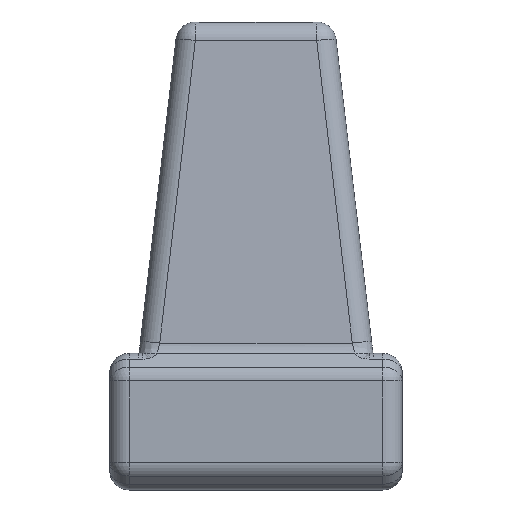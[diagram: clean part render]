
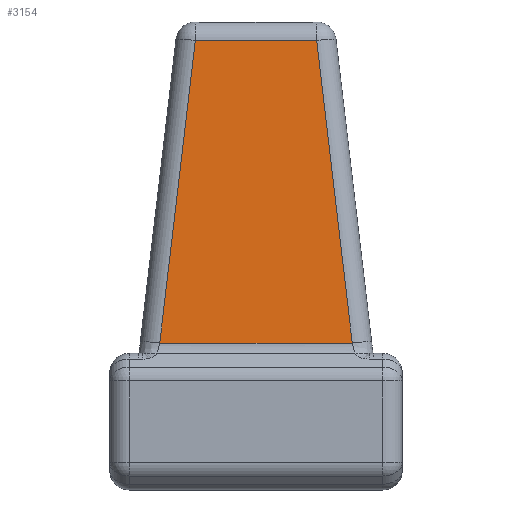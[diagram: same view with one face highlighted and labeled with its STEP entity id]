
A CAD part, top view. The second image highlights one B-rep face of the part: STEP entity #3154.
In plain terms, the highlighted planar face has unit normal (0, 0.052, 0.999).
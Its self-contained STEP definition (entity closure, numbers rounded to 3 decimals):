
#33 = AXIS2_PLACEMENT_3D ( 'NONE', #586, #324, #1787 ) ;
#34 = FACE_OUTER_BOUND ( 'NONE', #2224, .T. ) ;
#129 = LINE ( 'NONE', #2767, #132 ) ;
#132 = VECTOR ( 'NONE', #3026, 1000. ) ;
#324 = DIRECTION ( 'NONE',  ( 0., 0.052, 0.999 ) ) ;
#365 = CARTESIAN_POINT ( 'NONE',  ( -20., 37.659, 9.315 ) ) ;
#507 = VECTOR ( 'NONE', #2586, 1000. ) ;
#508 = EDGE_CURVE ( 'NONE', #1555, #2966, #2243, .T. ) ;
#509 = LINE ( 'NONE', #666, #507 ) ;
#569 = DIRECTION ( 'NONE',  ( -0.117, 0.992, -0.052 ) ) ;
#586 = CARTESIAN_POINT ( 'NONE',  ( -20., 120., 5. ) ) ;
#666 = CARTESIAN_POINT ( 'NONE',  ( -15.064, 119.421, 5.03 ) ) ;
#674 = VECTOR ( 'NONE', #2316, 1000. ) ;
#680 = ORIENTED_EDGE ( 'NONE', *, *, #3141, .T. ) ;
#685 = LINE ( 'NONE', #365, #674 ) ;
#980 = VECTOR ( 'NONE', #569, 1000. ) ;
#1116 = VERTEX_POINT ( 'NONE', #1757 ) ;
#1555 = VERTEX_POINT ( 'NONE', #3039 ) ;
#1757 = CARTESIAN_POINT ( 'NONE',  ( -24.684, 37.659, 9.315 ) ) ;
#1787 = DIRECTION ( 'NONE',  ( 0., -0.999, 0.052 ) ) ;
#1942 = ORIENTED_EDGE ( 'NONE', *, *, #2234, .T. ) ;
#1990 = VERTEX_POINT ( 'NONE', #2245 ) ;
#2027 = EDGE_CURVE ( 'NONE', #1116, #1555, #685, .T. ) ;
#2224 = EDGE_LOOP ( 'NONE', ( #2685, #2455, #680, #1942 ) ) ;
#2234 = EDGE_CURVE ( 'NONE', #1990, #1116, #509, .T. ) ;
#2243 = LINE ( 'NONE', #2773, #980 ) ;
#2245 = CARTESIAN_POINT ( 'NONE',  ( -15.554, 115.262, 5.248 ) ) ;
#2277 = PLANE ( 'NONE',  #33 ) ;
#2316 = DIRECTION ( 'NONE',  ( 1., 0., 0. ) ) ;
#2380 = CARTESIAN_POINT ( 'NONE',  ( 15.554, 115.262, 5.248 ) ) ;
#2455 = ORIENTED_EDGE ( 'NONE', *, *, #508, .T. ) ;
#2586 = DIRECTION ( 'NONE',  ( -0.117, -0.992, 0.052 ) ) ;
#2685 = ORIENTED_EDGE ( 'NONE', *, *, #2027, .T. ) ;
#2767 = CARTESIAN_POINT ( 'NONE',  ( -20., 115.262, 5.248 ) ) ;
#2773 = CARTESIAN_POINT ( 'NONE',  ( 14.52, 124.05, 4.788 ) ) ;
#2966 = VERTEX_POINT ( 'NONE', #2380 ) ;
#3026 = DIRECTION ( 'NONE',  ( -1., 0., 0. ) ) ;
#3039 = CARTESIAN_POINT ( 'NONE',  ( 24.684, 37.659, 9.315 ) ) ;
#3141 = EDGE_CURVE ( 'NONE', #2966, #1990, #129, .T. ) ;
#3154 = ADVANCED_FACE ( 'NONE', ( #34 ), #2277, .T. ) ;
